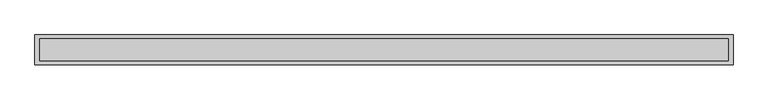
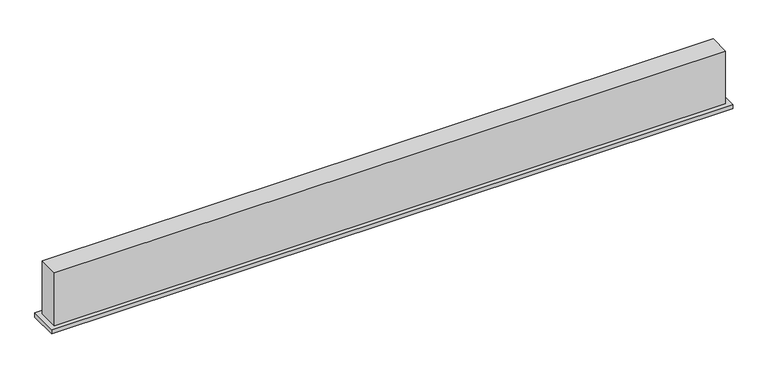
"""IFC4 building model written with IfcOpenShell, lengths in millimetres: air terminal geometry, 033_線状吹出口_BL : BL-S."""

from ifc_helpers import new_model, si_unit, frame, origin, origin_with_axes, place, context, project, spatial, polyline, outline, extrude, source, transform, mapped, element, save


def air_terminal_4dc30e9d(model_context):
    return source(origin(), model_context, "Body", "SweptSolid", [
        extrude(outline(polyline([(761.0, -32.5), (-761.0, -32.5), (-761.0, 32.5), (761.0, 32.5), (761.0, -32.5)]), holes=[polyline([(750.0, -24.0), (750.0, 24.0), (-750.0, 24.0), (-750.0, -24.0), (750.0, -24.0)])]), frame((0.0, 0.0, -10.0), z_axis=(0.0, 0.0, 1.0), x_axis=(1.0, 0.0, 0.0)), (0.0, 0.0, 1.0), 10.0),
        extrude(outline(polyline([(750.0, 24.0), (750.0, -24.0), (-750.0, -24.0), (-750.0, 24.0), (750.0, 24.0)])), origin_with_axes(), (0.0, 0.0, 1.0), 125.0),
    ])


if __name__ == "__main__":
    model = new_model("IFC4")
    model_context = context("Model", 3, world=origin())
    ifc_project = project(units=[si_unit("LENGTHUNIT", "METRE", prefix="MILLI")], contexts=[model_context])
    site = spatial("IfcSite", under=ifc_project)
    building = spatial("IfcBuilding", under=site)
    placement = place(None, origin())
    air_terminal_shape = air_terminal_4dc30e9d(model_context)
    element("IfcAirTerminal", 1, ObjectType="033_線状吹出口_BL : BL-S", at=placement, inside=building, context=model_context, shape_type="MappedRepresentation", body=[
        mapped(air_terminal_shape, transform((0.0, 0.0, 0.0), x_axis=(1.0, 0.0, 0.0), y_axis=(0.0, 1.0, 0.0), z_axis=(0.0, 0.0, 1.0))),
    ])
    save(model, "model.ifc")
